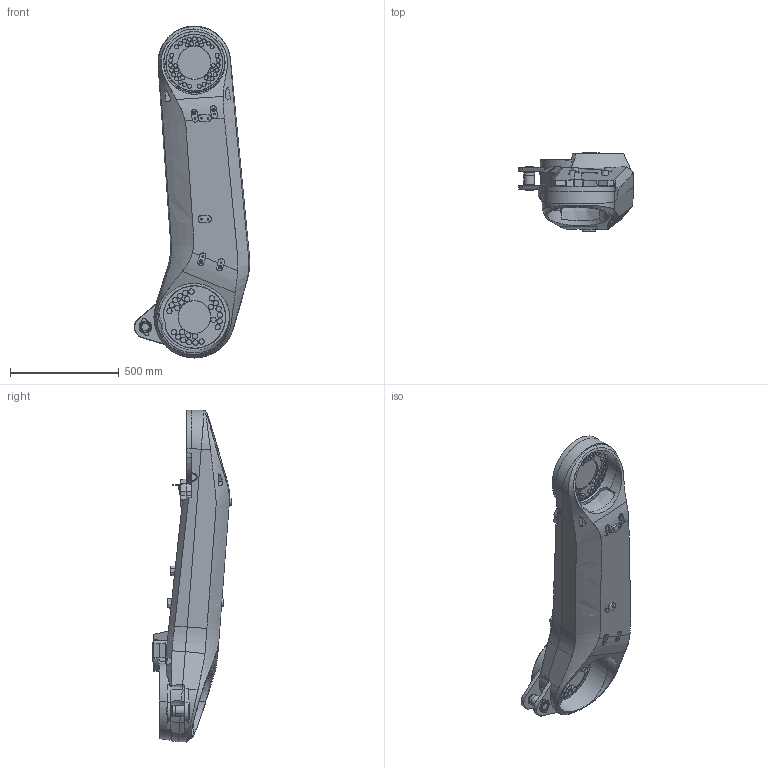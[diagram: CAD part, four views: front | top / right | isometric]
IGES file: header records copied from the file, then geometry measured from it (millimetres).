
Start section: SolidWorks IGES file using analytic representation for surfaces
Global section: file name: C:\DATA\SAP_DOC\LW\IRB 6730\IRB6730-MH3_270kg-270_OC_01_SW_J\Export\IRB6730-MH3_270kg-270_OC_01_IGES_J\IRB6730-MH3_270kg-270_OC_00_LINK02_CAD.igs; native system: SolidWorks 2024; preprocessor: SolidWorks 2024; author: SEJOVAS3; date: 260526.113902; units: millimetre
Bounding box: 530.94 x 362.5 x 1527.65 mm (x, y, z)
Surface area: 2117136.1 mm2 (no closed solid volume)
Topology: 0 solids, 0 shells, 758 faces, 17287 edges, 17281 vertices
Faces by surface type: bspline 424, revolution 334
